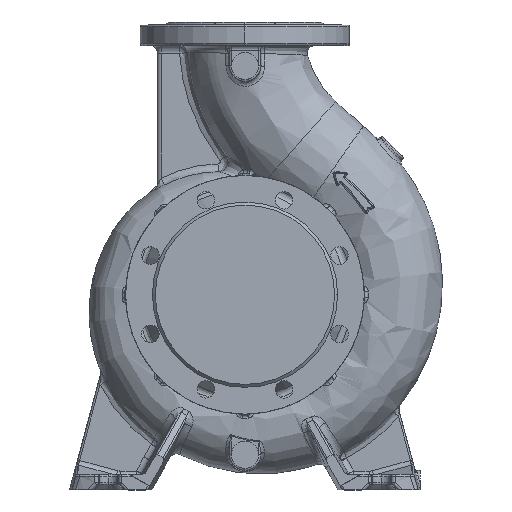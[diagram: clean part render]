
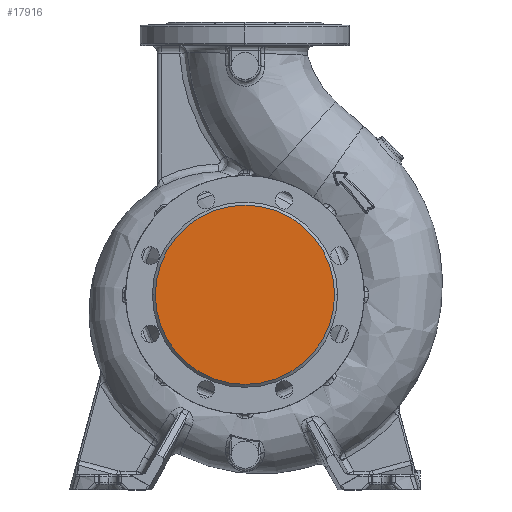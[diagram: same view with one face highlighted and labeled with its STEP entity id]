
A CAD part, top view. The second image highlights one B-rep face of the part: STEP entity #17916.
In plain terms, the highlighted planar face has unit normal (0, 0, 1).
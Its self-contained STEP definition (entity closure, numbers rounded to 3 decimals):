
#7651 = AXIS2_PLACEMENT_3D ( 'NONE', #34946, #13758, #63528 ) ;
#10591 = AXIS2_PLACEMENT_3D ( 'NONE', #14805, #22003, #43769 ) ;
#13758 = DIRECTION ( 'NONE',  ( 0., 0., 1. ) ) ;
#14805 = CARTESIAN_POINT ( 'NONE',  ( 0., 0., 125. ) ) ;
#17916 = ADVANCED_FACE ( 'NONE', ( #75811 ), #55385, .T. ) ;
#18405 = CIRCLE ( 'NONE', #7651, 92. ) ;
#22003 = DIRECTION ( 'NONE',  ( 0., 0., 1. ) ) ;
#23626 = CARTESIAN_POINT ( 'NONE',  ( 92., 0., 125. ) ) ;
#24124 = EDGE_LOOP ( 'NONE', ( #31629, #73204 ) ) ;
#31629 = ORIENTED_EDGE ( 'NONE', *, *, #56575, .T. ) ;
#34946 = CARTESIAN_POINT ( 'NONE',  ( 0., 0., 125. ) ) ;
#43769 = DIRECTION ( 'NONE',  ( 1., 0., 0. ) ) ;
#48553 = DIRECTION ( 'NONE',  ( 1., 0., 0. ) ) ;
#53747 = CIRCLE ( 'NONE', #10591, 92. ) ;
#55385 = PLANE ( 'NONE',  #66360 ) ;
#56575 = EDGE_CURVE ( 'NONE', #87246, #80668, #18405, .T. ) ;
#63528 = DIRECTION ( 'NONE',  ( 1., 0., 0. ) ) ;
#66360 = AXIS2_PLACEMENT_3D ( 'NONE', #76429, #76131, #48553 ) ;
#73204 = ORIENTED_EDGE ( 'NONE', *, *, #84886, .T. ) ;
#75811 = FACE_OUTER_BOUND ( 'NONE', #24124, .T. ) ;
#76131 = DIRECTION ( 'NONE',  ( 0., 0., 1. ) ) ;
#76429 = CARTESIAN_POINT ( 'NONE',  ( 0., 0., 125. ) ) ;
#80668 = VERTEX_POINT ( 'NONE', #23626 ) ;
#84825 = CARTESIAN_POINT ( 'NONE',  ( -92., 0., 125. ) ) ;
#84886 = EDGE_CURVE ( 'NONE', #80668, #87246, #53747, .T. ) ;
#87246 = VERTEX_POINT ( 'NONE', #84825 ) ;
